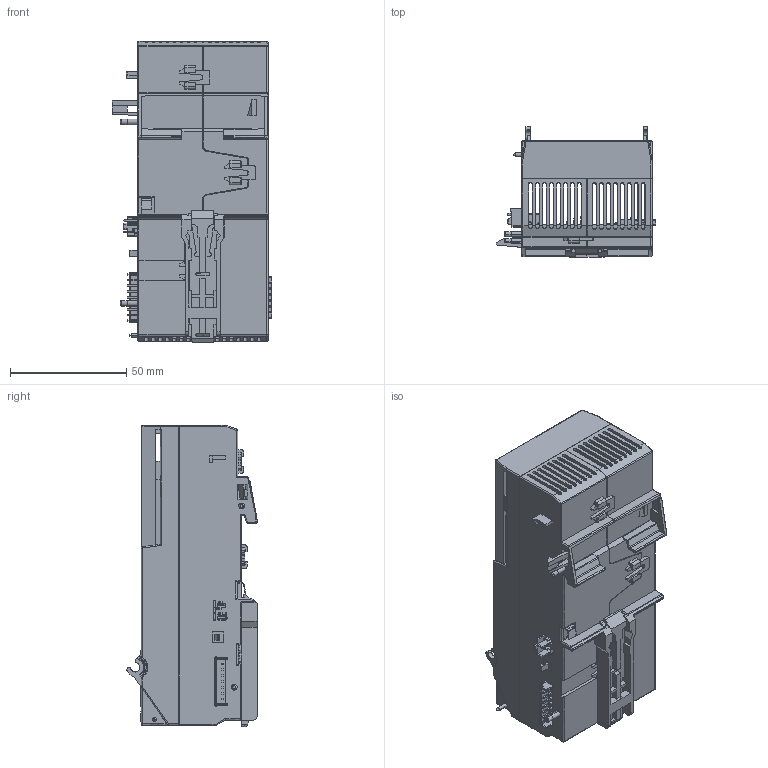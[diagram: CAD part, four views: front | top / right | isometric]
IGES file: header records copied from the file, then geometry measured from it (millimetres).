
Start section:  PTC IGES file: 2016715
Global section: file name: 2016715; native system: Creo Parametric by Parametric Technology Corporation; preprocessor: 2014090; author: merz; organization: Unknown; date: 20141117.085221; units: millimetre
Bounding box: 68.35 x 55.97 x 129.52 mm (x, y, z)
Surface area: 89191.1 mm2 (no closed solid volume)
Topology: 0 solids, 0 shells, 3841 faces, 20874 edges, 20872 vertices
Faces by surface type: bspline 2539, revolution 1302
